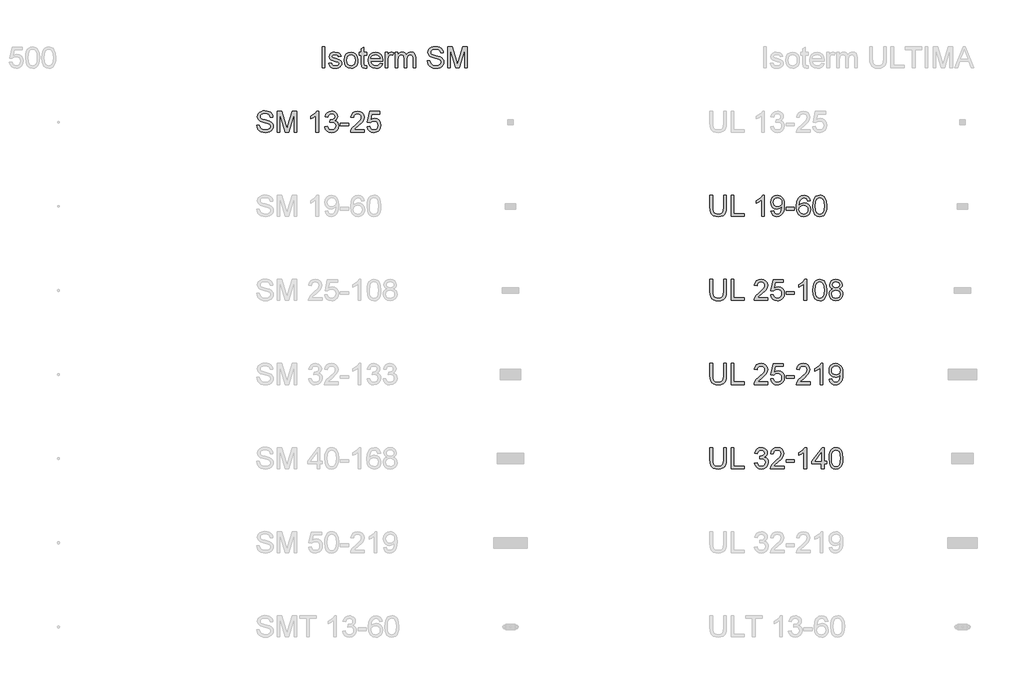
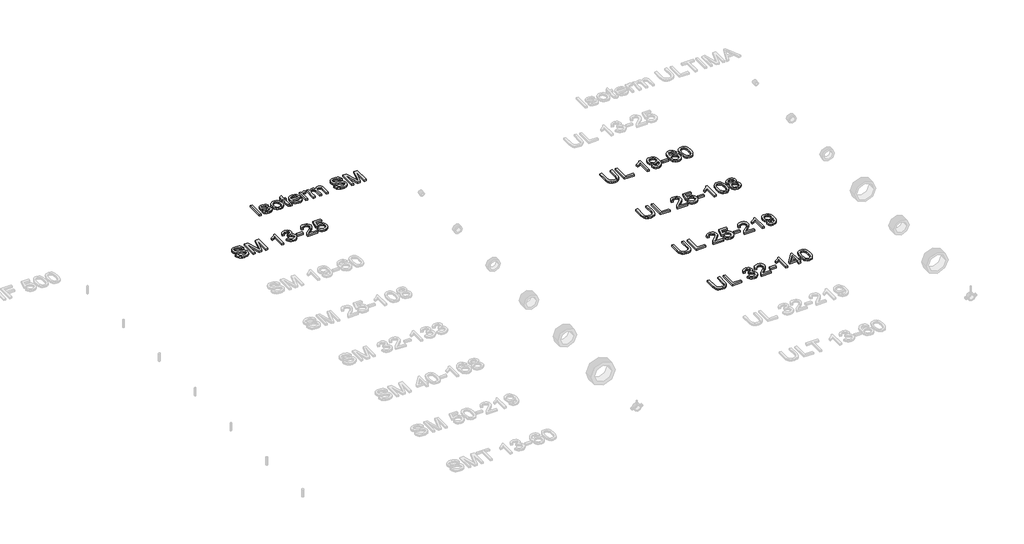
# One storey, part 8 of 10: 6 proxies.
"""IFC4 building model written with IfcOpenShell, lengths in millimetres."""

import ifcopenshell
import ifcopenshell.guid

model = None  # the IFC model being written
_history = None  # IfcOwnerHistory: only IFC2X3 demands one
_inside = {}  # id of a spatial element -> (the spatial element, [elements in it])
_under = {}  # id of a project, library or spatial element -> (it, [spatial elements below it])
_declared = {}  # id of a project -> (the project, [libraries it declares])
_typed = {}  # id of a type object -> (the type object, [elements of that type])
_made_of = {}  # id of a material, layer set ... -> (it, [elements and type objects made of it])


def new_model(schema):
    """Start an empty IFC model of exactly this schema.

    Asked for "IFC4X3", IfcOpenShell would pick the latest addendum, in which some entities
    have other attributes; the version numbers below select the first issue.
    IFC2X3 requires an IfcOwnerHistory on every rooted entity: one is made here for all.
    """
    global model, _history
    if schema == "IFC4X3":
        model = ifcopenshell.file(schema_version=(4, 3, 0, 0))
    else:
        model = ifcopenshell.file(schema=schema)
    _inside.clear()
    _under.clear()
    _declared.clear()
    _typed.clear()
    _made_of.clear()
    _history = None
    if model.schema == "IFC2X3":
        org = make("IfcOrganization", Name="unknown")
        user = make(
            "IfcPersonAndOrganization",
            ThePerson=make("IfcPerson", FamilyName="unknown"),
            TheOrganization=org,
        )
        app = make(
            "IfcApplication",
            ApplicationDeveloper=org,
            Version="unknown",
            ApplicationFullName="unknown",
            ApplicationIdentifier="unknown",
        )
        _history = make(
            "IfcOwnerHistory",
            OwningUser=user,
            OwningApplication=app,
            ChangeAction="ADDED",
            CreationDate=0,
        )
    return model


def make(cls, **values):
    """One entity of the class cls with the attributes given. An attribute that is None is left unset."""
    return model.create_entity(
        cls, **{name: value for name, value in values.items() if value is not None}
    )


def rooted(cls, **values):
    """An entity with a GlobalId (a new one), such as an element, a storey or a relation."""
    return make(cls, GlobalId=ifcopenshell.guid.new(), OwnerHistory=_history, **values)


def si_unit(unit_type, name, prefix=None):
    """IfcSIUnit, for example si_unit("LENGTHUNIT", "METRE", prefix="MILLI")."""
    return make("IfcSIUnit", UnitType=unit_type, Prefix=prefix, Name=name)


def assignment(units):
    """IfcUnitAssignment: the units of a project."""
    return None if units is None else make("IfcUnitAssignment", Units=units)


def point(xyz):
    """IfcCartesianPoint."""
    return None if xyz is None else make("IfcCartesianPoint", Coordinates=xyz)


def direction(xyz):
    """IfcDirection."""
    return None if xyz is None else make("IfcDirection", DirectionRatios=xyz)


def frame(location, z_axis=None, x_axis=None):
    """IfcAxis2Placement3D, a coordinate frame: its origin and axes. An axis left out is left unset."""
    return make(
        "IfcAxis2Placement3D",
        Location=point(location),
        Axis=direction(z_axis),
        RefDirection=direction(x_axis),
    )


def origin():
    """The frame at (0, 0, 0) with its axes left unset."""
    return frame((0.0, 0.0, 0.0))


def origin_with_axes():
    """The frame at (0, 0, 0) with the z axis (0, 0, 1) and the x axis (1, 0, 0) written out."""
    return frame((0.0, 0.0, 0.0), z_axis=(0.0, 0.0, 1.0), x_axis=(1.0, 0.0, 0.0))


def place(relative_to, where):
    """IfcLocalPlacement: puts the frame where relative to a parent placement (None: the world)."""
    return make(
        "IfcLocalPlacement", PlacementRelTo=relative_to, RelativePlacement=where
    )


def context(
    kind, dimensions, precision=None, world=None, true_north=None, identifier=None
):
    """IfcGeometricRepresentationContext, for example the 3D "Model" context."""
    return make(
        "IfcGeometricRepresentationContext",
        ContextIdentifier=identifier,
        ContextType=kind,
        CoordinateSpaceDimension=dimensions,
        Precision=precision,
        WorldCoordinateSystem=world,
        TrueNorth=true_north,
    )


def project(units=None, contexts=None):
    """IfcProject with its units and contexts."""
    return rooted(
        "IfcProject",
        Name="project",
        RepresentationContexts=contexts,
        UnitsInContext=assignment(units),
    )


def spatial(cls, under=None, at=None, **own):
    """A site, building, storey or space (cls), placed at a placement, below another one or the project."""
    s = rooted(cls, ObjectPlacement=at, **own)
    if under is not None:
        _under.setdefault(under.id(), (under, []))[1].append(s)
    return s


def polyline(points):
    """IfcPolyline through the points."""
    return make("IfcPolyline", Points=[point(p) for p in points])


def outline(outer, holes=None, kind="AREA"):
    """IfcArbitraryClosedProfileDef: a profile drawn as a closed curve; with holes, ...WithVoids."""
    if holes is None:
        return make("IfcArbitraryClosedProfileDef", ProfileType=kind, OuterCurve=outer)
    return make(
        "IfcArbitraryProfileDefWithVoids",
        ProfileType=kind,
        OuterCurve=outer,
        InnerCurves=holes,
    )


def extrude(swept, where, along, depth):
    """IfcExtrudedAreaSolid: the profile swept, set in the frame where, extruded along a direction by depth."""
    return make(
        "IfcExtrudedAreaSolid",
        SweptArea=swept,
        Position=where,
        ExtrudedDirection=direction(along),
        Depth=depth,
    )


def shape(context_of_items, identifier, shape_type, items):
    """IfcShapeRepresentation: the items that make up one representation, for example the "Body"."""
    return make(
        "IfcShapeRepresentation",
        ContextOfItems=context_of_items,
        RepresentationIdentifier=identifier,
        RepresentationType=shape_type,
        Items=items,
    )


def made_of(thing, what):
    """Note that an element or type object is made of a material, layer set ...; save() writes the relation."""
    if what is not None:
        _made_of.setdefault(what.id(), (what, []))[1].append(thing)
    return thing


def element(
    cls,
    number,
    at=None,
    inside=None,
    cuts=None,
    type_object=None,
    material=None,
    context=None,
    identifier="Body",
    shape_type=None,
    held_by="IfcProductDefinitionShape",
    body=None,
    shapes=None,
    **own,
):
    """One element of the class cls, such as IfcWall. Its Tag is "e" and its number.

    at: its placement. inside: the storey or other place that contains it. cuts: it is an
    opening in that element (IfcRelVoidsElement). A single representation is given by context,
    identifier, shape_type and body (its items); several are given by shapes. held_by: the class
    of the entity that holds the representations. save() writes the other relations.
    """
    e = rooted(cls, Tag="e%d" % number, ObjectPlacement=at, **own)
    if body is not None:
        shapes = [shape(context, identifier, shape_type, body)]
    if shapes is not None:
        e.Representation = make(held_by, Representations=shapes)
    if inside is not None:
        _inside.setdefault(inside.id(), (inside, []))[1].append(e)
    if cuts is not None:
        rooted(
            "IfcRelVoidsElement", RelatingBuildingElement=cuts, RelatedOpeningElement=e
        )
    if type_object is not None:
        _typed.setdefault(type_object.id(), (type_object, []))[1].append(e)
    return made_of(e, material)


def aggregate(whole, parts):
    """IfcRelAggregates: a whole, such as a stair, and the parts it consists of."""
    return rooted("IfcRelAggregates", RelatingObject=whole, RelatedObjects=parts)


def save(model, path):
    """Write the relations noted so far, then the file.

    IfcRelAggregates (storeys below a building ...), IfcRelContainedInSpatialStructure (elements
    in a storey), IfcRelDefinesByType, IfcRelAssociatesMaterial and IfcRelDeclares: one each for
    every whole, place, type object, material and project.
    """
    for whole, parts in _under.values():
        aggregate(whole, parts)
    for where, things in _inside.values():
        rooted(
            "IfcRelContainedInSpatialStructure",
            RelatedElements=things,
            RelatingStructure=where,
        )
    for kind, things in _typed.values():
        rooted("IfcRelDefinesByType", RelatedObjects=things, RelatingType=kind)
    for what, things in _made_of.values():
        rooted("IfcRelAssociatesMaterial", RelatedObjects=things, RelatingMaterial=what)
    for by, libraries in _declared.values():
        rooted("IfcRelDeclares", RelatingContext=by, RelatedDefinitions=libraries)
    model.write(path)


model = new_model("IFC4")

# Units and contexts
model_context = context("Model", 3, world=origin())
ifc_project = project(units=[si_unit("LENGTHUNIT", "METRE", prefix="MILLI")], contexts=[model_context])

# Site, building, storey
site = spatial("IfcSite", under=ifc_project)
building = spatial("IfcBuilding", under=site)
storey = spatial("IfcBuildingStorey", under=building, Name="Этаж 01", Elevation=0.0)

# Proxies
placement = place(None, origin())
element("IfcBuildingElementProxy", 1, Name="200 мм Arial", ObjectType="200 мм Arial", at=placement, inside=storey, context=model_context, shape_type="SweptSolid", body=[
    extrude(outline(polyline([(9784.860356, -183.6730679), (9784.860356, 17.2395524), (9809.9744335, 17.2395524), (9809.9744335, -183.6730679), (9784.860356, -183.6730679)])), origin_with_axes(), (0.0, 0.0, 1.0), 20.0),
    extrude(outline(polyline([(9847.6455499, -139.7234322), (9872.7596274, -136.5841725), (9876.7204902, -147.3263267), (9884.3846984, -155.2235269), (9895.801303, -160.0795692), (9911.0193549, -161.69825), (9926.0534658, -160.2144593), (9936.6239418, -155.7630872), (9942.8779357, -149.3128895), (9944.9626003, -141.8326223), (9942.8656729, -135.4314756), (9936.5748908, -130.5509078), (9910.7250493, -123.3894716), (9872.9067802, -111.102213), (9863.3357169, -104.9279268), (9856.4011413, -96.7548151), (9850.7848095, -76.4967799), (9855.2974954, -57.7838491), (9867.6092795, -43.4855022), (9883.575358, -36.0542859), (9905.1822939, -32.9886026), (9935.741025, -37.9182214), (9947.1698923, -43.7184942), (9955.1651943, -51.2600751), (9963.7981585, -73.7989786), (9938.6840809, -76.9382383), (9935.5141644, -69.0349068), (9929.2417764, -63.0813498), (9907.1443312, -58.1026802), (9892.723357, -59.2921653), (9883.1093742, -62.8606207), (9877.7015089, -68.0109686), (9875.8988871, -73.9461314), (9878.890994, -81.2547204), (9888.2597221, -86.7974758), (9909.8911834, -92.1440275), (9946.7529594, -103.9653022), (9963.8717349, -117.3562069), (9968.5254421, -127.2031816), (9970.0766778, -139.1838719), (9968.255662, -151.5692324), (9962.7926143, -163.2188289), (9953.8960014, -173.2190878), (9941.7742897, -180.6564355), (9927.1325863, -185.2733545), (9910.6759984, -186.8123276), (9885.3534544, -183.8447461), (9866.8735155, -174.9420018), (9854.5372059, -160.2021966), (9847.6455499, -139.7234322)])), origin_with_axes(), (0.0, 0.0, 1.0), 20.0),
    extrude(outline(polyline([(9992.0514957, -109.9004651), (9997.4838865, -74.3262762), (10004.274375, -60.5031102), (10013.7810589, -49.3225632), (10033.9164667, -37.0720928), (10058.0250002, -32.9886026), (10084.4082706, -37.9611409), (10105.4817775, -52.8787558), (10119.2957465, -76.564225), (10123.9004028, -107.8403259), (10121.8647891, -133.2119209), (10115.7579479, -152.5257256), (10105.757689, -166.9896194), (10092.041822, -177.8114814), (10075.750781, -184.562116), (10058.0250002, -186.8123276), (10031.3228987, -181.8581834), (10010.2739172, -166.9957508), (9996.6071011, -142.8136409), (9992.0514957, -109.9004651)]), holes=[polyline([(10017.1655732, -109.8514142), (10020.071841, -132.5803901), (10028.7906443, -148.7733293), (10041.9117688, -158.4670198), (10058.0250002, -161.69825), (10074.0646552, -158.4486257), (10087.1612542, -148.6997529), (10095.8800575, -132.2922159), (10098.7863252, -109.0665992), (10095.8616634, -86.9998109), (10087.0876778, -71.0276009), (10073.9726847, -61.3339104), (10058.0250002, -58.1026802), (10041.9117688, -61.3216476), (10028.7906443, -70.97855), (10020.071841, -87.134701), (10017.1655732, -109.8514142)])]), origin_with_axes(), (0.0, 0.0, 1.0), 20.0),
    extrude(outline(polyline([(10205.5211548, -162.7283196), (10208.6604145, -184.4088319), (10189.8739072, -186.8123276), (10168.8310571, -182.6429983), (10158.3341575, -171.7046403), (10155.2929997, -143.2060484), (10155.2929997, -61.2419399), (10136.4574415, -61.2419399), (10136.4574415, -36.1278623), (10155.2929997, -36.1278623), (10155.2929997, -0.2716305), (10180.4070772, 14.4927002), (10180.4070772, -36.1278623), (10205.5211548, -36.1278623), (10205.5211548, -61.2419399), (10180.4070772, -61.2419399), (10180.4070772, -142.4702844), (10181.7314524, -155.4197306), (10186.023409, -160.0059928), (10194.5827968, -161.69825), (10205.5211548, -162.7283196)])), origin_with_axes(), (0.0, 0.0, 1.0), 20.0),
    extrude(outline(polyline([(10333.9364965, -139.7234322), (10358.5600648, -142.8626919), (10349.6879773, -161.4162072), (10335.5306519, -175.2853584), (10316.4069195, -183.9305853), (10292.6356112, -186.8123276), (10263.1682634, -181.8397893), (10240.4944698, -166.9221744), (10226.0367074, -143.0282388), (10221.2174532, -111.1267384), (10226.0857583, -78.1522489), (10240.6906735, -53.4918925), (10263.0578988, -38.1144251), (10291.2131342, -32.9886026), (10318.4915841, -38.1021624), (10340.2885923, -53.4428416), (10354.5808078, -78.0541471), (10359.3448797, -110.9795856), (10359.1977269, -117.7486143), (10246.3315308, -117.7486143), (10250.6786697, -136.5473843), (10260.7770304, -150.3674846), (10275.3512888, -158.8655587), (10293.1261205, -161.69825), (10317.7496888, -156.4498002), (10326.8976877, -149.6439833), (10333.9364965, -139.7234322)]), holes=[polyline([(10246.3315308, -92.6345368), (10334.2308021, -92.6345368), (10330.8340251, -79.3662595), (10324.1753609, -69.874904), (10309.5336575, -61.0457361), (10291.1150323, -58.1026802), (10274.1863292, -60.4509936), (10260.1884192, -67.4959338), (10250.4579405, -78.4772113), (10246.3315308, -92.6345368)])]), origin_with_axes(), (0.0, 0.0, 1.0), 20.0),
    extrude(outline(polyline([(10384.4589572, -183.6730679), (10384.4589572, -36.1278623), (10406.4337751, -36.1278623), (10406.4337751, -57.9555274), (10422.0319717, -37.844645), (10437.7282701, -32.9886026), (10450.236258, -34.9261145), (10462.9404495, -40.73865), (10454.55274, -63.2530281), (10436.8944043, -58.1026802), (10422.6941592, -63.0568244), (10413.6442622, -76.7910855), (10409.5730348, -106.1235433), (10409.5730348, -183.6730679), (10384.4589572, -183.6730679)])), origin_with_axes(), (0.0, 0.0, 1.0), 20.0),
    extrude(outline(polyline([(10478.636748, -183.6730679), (10478.636748, -36.1278623), (10503.7508255, -36.1278623), (10503.7508255, -60.408074), (10511.3046692, -49.2551182), (10521.0167538, -40.5179208), (10532.5559857, -34.8709322), (10545.5912711, -32.9886026), (10559.5585242, -34.9077204), (10570.7543996, -40.6650736), (10579.1175836, -49.8805176), (10584.5867626, -62.1739076), (10593.7408929, -49.4053367), (10604.1826102, -40.2849289), (10615.9119145, -34.8126842), (10628.9288057, -32.9886026), (10647.8072835, -36.0236291), (10661.7684052, -45.1287085), (10670.395238, -60.5490954), (10673.2708489, -82.5300447), (10673.2708489, -183.6730679), (10648.1567714, -183.6730679), (10648.1567714, -93.3212499), (10645.8268521, -72.3519761), (10637.3900916, -62.0267548), (10623.0426938, -58.1026802), (10609.4371914, -60.6165405), (10598.3455492, -68.1581214), (10590.9695152, -81.2424577), (10588.5108372, -100.3845842), (10588.5108372, -183.6730679), (10563.3967597, -183.6730679), (10563.3967597, -90.5253467), (10561.9436258, -76.3251017), (10557.5842241, -66.1960841), (10549.9138845, -60.1260312), (10538.5279368, -58.1026802), (10519.9376333, -63.4982828), (10512.5799934, -70.1446842), (10507.5767983, -79.2926831), (10503.7508255, -109.262803), (10503.7508255, -183.6730679), (10478.636748, -183.6730679)])), origin_with_axes(), (0.0, 0.0, 1.0), 20.0),
    extrude(outline(polyline([(10783.1449381, -114.6093546), (10808.2590157, -114.6093546), (10816.3524196, -139.7479576), (10824.4826116, -148.6384392), (10836.1199454, -155.6404598), (10850.3447159, -160.1838025), (10866.2372181, -161.69825), (10892.4794671, -157.1119878), (10909.4265643, -144.5058981), (10914.9938452, -127.6569027), (10910.8245159, -111.9851297), (10904.4724201, -105.7863181), (10893.7547913, -100.5807879), (10857.187321, -90.9913306), (10817.8239475, -78.60597), (10805.3220911, -70.1569469), (10796.4622663, -59.9175647), (10791.1831597, -48.1085526), (10789.4234575, -34.95064), (10791.6000926, -20.2414915), (10798.1299981, -6.5256245), (10808.8414955, 5.0994466), (10823.5629067, 13.536207), (10841.2335052, 18.6681608), (10860.7925646, 20.3788121), (10881.9825675, 18.5884531), (10900.52382, 13.217376), (10915.7541346, 4.3759453), (10927.0113237, -7.8254742), (10934.1359717, -22.6265931), (10936.968663, -39.267122), (10911.8545855, -39.267122), (10907.2437978, -24.2820621), (10897.629815, -13.4663314), (10882.6079669, -6.9180319), (10861.7735832, -4.7352654), (10840.4486902, -6.8935065), (10825.8192496, -13.3682296), (10817.3579637, -22.8963732), (10814.537535, -34.214876), (10816.5363606, -43.865647), (10822.5328371, -51.6279571), (10836.7085566, -58.568664), (10863.5394168, -65.6565238), (10907.9795618, -78.2626135), (10922.2963028, -87.3738243), (10932.284299, -98.6187506), (10938.1520168, -111.8747651), (10940.1079227, -127.0192406), (10937.8577112, -142.5009412), (10931.1070766, -157.0629369), (10920.1319304, -169.5954502), (10905.2081841, -178.9887038), (10887.2616741, -184.8564216), (10867.2182368, -186.8123276), (10842.6130626, -184.7031375), (10822.3611588, -178.3755671), (10806.2295333, -167.8050911), (10793.9851942, -152.967184), (10786.1247823, -134.8919153), (10783.1449381, -114.6093546)])), origin_with_axes(), (0.0, 0.0, 1.0), 20.0),
    extrude(outline(polyline([(10977.779039, -183.6730679), (10977.779039, 17.2395524), (11020.9929107, 17.2395524), (11062.0975923, -124.3704902), (11070.3872, -153.9482027), (11079.3635206, -121.9179436), (11119.7814892, 17.2395524), (11162.9953609, 17.2395524), (11162.9953609, -183.6730679), (11137.8812833, -183.6730679), (11137.8812833, -7.8745251), (11087.4078736, -183.6730679), (11053.3665263, -183.6730679), (11002.8931166, -7.8745251), (11002.8931166, -183.6730679), (10977.779039, -183.6730679)])), origin_with_axes(), (0.0, 0.0, 1.0), 20.0),
])
element("IfcBuildingElementProxy", 2, Name="200 мм Arial", ObjectType="200 мм Arial", at=placement, inside=storey, context=model_context, shape_type="SweptSolid", body=[
    extrude(outline(polyline([(9162.1098597, -725.9144615), (9187.2239373, -725.9144615), (9195.3173412, -751.0530645), (9203.4475333, -759.9435461), (9215.084867, -766.9455667), (9229.3096375, -771.4889093), (9245.2021397, -773.0033569), (9271.4443887, -768.4170947), (9288.3914859, -755.811005), (9293.9587668, -738.9620096), (9289.7894375, -723.2902366), (9283.4373417, -717.091425), (9272.7197129, -711.8858947), (9236.1522426, -702.2964374), (9196.7888691, -689.9110769), (9184.2870127, -681.4620537), (9175.427188, -671.2226715), (9170.1480813, -659.4136595), (9168.3883791, -646.2557468), (9170.5650143, -631.5465984), (9177.0949197, -617.8307313), (9187.8064171, -606.2056603), (9202.5278283, -597.7688998), (9220.1984268, -592.636946), (9239.7574862, -590.9262947), (9260.9474891, -592.7166538), (9279.4887417, -598.0877309), (9294.7190563, -606.9291615), (9305.9762453, -619.130581), (9313.1008933, -633.9317), (9315.9335846, -650.5722289), (9290.8195071, -650.5722289), (9286.2087194, -635.5871689), (9276.5947366, -624.7714383), (9261.5728885, -618.2231388), (9240.7385048, -616.0403723), (9219.4136118, -618.1986133), (9204.7841712, -624.6733364), (9196.3228853, -634.2014801), (9193.5024567, -645.5199828), (9195.5012822, -655.1707538), (9201.4977587, -662.9330639), (9215.6734782, -669.8737709), (9242.5043384, -676.9616307), (9286.9444834, -689.5677204), (9301.2612244, -698.6789311), (9311.2492206, -709.9238574), (9317.1169384, -723.179872), (9319.0728443, -738.3243475), (9316.8226328, -753.8060481), (9310.0719982, -768.3680437), (9299.096852, -780.900557), (9284.1731057, -790.2938107), (9266.2265957, -796.1615285), (9246.1831584, -798.1174344), (9221.5779843, -796.0082443), (9201.3260804, -789.680674), (9185.1944549, -779.110198), (9172.9501159, -764.2722909), (9165.0897039, -746.1970222), (9162.1098597, -725.9144615)])), origin_with_axes(), (0.0, 0.0, 1.0), 20.0),
    extrude(outline(polyline([(9356.7439606, -794.9781747), (9356.7439606, -594.0655544), (9399.9578323, -594.0655544), (9441.0625139, -735.6755971), (9449.3521216, -765.2533095), (9458.3284422, -733.2230505), (9498.7464108, -594.0655544), (9541.9602825, -594.0655544), (9541.9602825, -794.9781747), (9516.8462049, -794.9781747), (9516.8462049, -619.179632), (9466.3727952, -794.9781747), (9432.3314479, -794.9781747), (9381.8580382, -619.179632), (9381.8580382, -794.9781747), (9356.7439606, -794.9781747)])), origin_with_axes(), (0.0, 0.0, 1.0), 20.0),
    extrude(outline(polyline([(9749.1514222, -794.9781747), (9724.0373446, -794.9781747), (9724.0373446, -638.4075976), (9700.2476423, -655.3546948), (9673.8091896, -668.0343609), (9673.8091896, -644.2937095), (9710.6219145, -620.7983127), (9724.0925269, -607.2234671), (9732.9646144, -594.0655544), (9749.1514222, -594.0655544), (9749.1514222, -794.9781747)])), origin_with_axes(), (0.0, 0.0, 1.0), 20.0),
    extrude(outline(polyline([(9808.7973563, -741.61076), (9833.9114339, -738.4715003), (9839.533897, -754.2536379), (9847.7683223, -764.909953), (9859.01938, -770.9800059), (9873.6917403, -773.0033569), (9890.9086176, -770.2197164), (9904.2014204, -761.8687952), (9912.6994945, -749.4098583), (9915.5321859, -734.302171), (9912.72402, -719.9609045), (9904.2995223, -708.3297021), (9891.5462798, -700.6225743), (9875.7518794, -698.0535317), (9858.1425946, -700.800384), (9860.9384978, -675.6863064), (9864.9606742, -675.980612), (9880.0070479, -674.1779902), (9893.4592661, -668.7701249), (9902.9506216, -659.622126), (9906.1144068, -646.5991033), (9903.8212757, -635.7527158), (9896.9418824, -626.9542048), (9886.4449828, -621.1232752), (9873.2993328, -619.179632), (9860.1291574, -621.1416693), (9849.3624777, -627.0277812), (9841.5020657, -636.8379677), (9837.0506935, -650.5722289), (9811.936616, -647.4329692), (9819.3310441, -624.8818029), (9832.4889568, -608.0450702), (9850.4906491, -597.5604334), (9872.416416, -594.0655544), (9888.204685, -595.7884684), (9902.705367, -600.9572105), (9914.9313119, -609.111928), (9923.8953699, -619.7927686), (9929.3952057, -632.0984214), (9931.2284843, -645.1275754), (9929.4871762, -657.2676812), (9924.2632519, -668.2796156), (9915.6302877, -677.6606065), (9903.6618601, -684.9078818), (9919.3826841, -691.2599776), (9931.0322806, -702.0757082), (9938.2427677, -716.7664625), (9940.6462634, -734.7436294), (9935.839272, -759.2200448), (9921.4182978, -779.6742837), (9899.6519464, -793.5066467), (9872.8088235, -798.1174344), (9848.5286118, -794.1810971), (9828.7610859, -782.372085), (9815.014562, -764.3090791), (9808.7973563, -741.61076)])), origin_with_axes(), (0.0, 0.0, 1.0), 20.0),
    extrude(outline(polyline([(9956.3425619, -735.3322406), (9956.3425619, -710.218163), (10034.8240542, -710.218163), (10034.8240542, -735.3322406), (9956.3425619, -735.3322406)])), origin_with_axes(), (0.0, 0.0, 1.0), 20.0),
    extrude(outline(polyline([(10185.5085194, -769.8640972), (10185.5085194, -794.9781747), (10053.6596123, -794.9781747), (10056.3574136, -777.6631955), (10071.6122537, -751.0040136), (10103.0539015, -721.892285), (10146.414926, -680.0518394), (10154.5451181, -665.6308652), (10157.2551822, -651.6022985), (10154.6984023, -639.0268656), (10147.0280627, -628.5728856), (10135.2374447, -621.5279454), (10120.3198298, -619.179632), (10104.6541882, -621.4727631), (10092.4834255, -628.3521564), (10084.6291449, -639.2782516), (10081.9129495, -653.7114886), (10056.798872, -650.5722289), (10062.887319, -626.2797545), (10076.0513631, -608.5355796), (10095.6042911, -597.6830607), (10120.8593901, -594.0655544), (10146.2984301, -598.0877309), (10165.8145699, -610.1542603), (10178.2305872, -628.1804781), (10182.3692597, -650.0817196), (10177.9056248, -673.8959474), (10163.0677177, -698.5195156), (10127.0888585, -732.9287449), (10098.1978592, -757.0863292), (10086.8670937, -769.8640972), (10185.5085194, -769.8640972)])), origin_with_axes(), (0.0, 0.0, 1.0), 20.0),
    extrude(outline(polyline([(10210.6225969, -741.61076), (10235.7366745, -738.4715003), (10240.3474621, -753.5485307), (10248.3918151, -764.3458673), (10259.8329451, -770.8389845), (10274.6340641, -773.0033569), (10292.6357564, -769.9928559), (10306.1247629, -760.9613529), (10314.5492606, -746.9511803), (10317.3574265, -729.0046703), (10314.7270702, -712.1066239), (10306.8360014, -699.1817032), (10293.6229064, -690.9779347), (10275.0264715, -688.2433452), (10252.9780773, -692.6088782), (10238.8759341, -703.9396437), (10213.7618566, -700.800384), (10235.7366745, -597.2048141), (10333.0537249, -597.2048141), (10333.0537249, -622.3188917), (10256.0437606, -622.3188917), (10245.3016063, -677.6483437), (10263.241985, -666.7590367), (10282.0407549, -663.1292677), (10305.5054948, -667.6296907), (10324.9848465, -681.13096), (10338.0998396, -701.7078262), (10342.471504, -727.4350404), (10338.5351666, -752.5491179), (10326.7261546, -774.0334265), (10316.2905687, -784.5701799), (10304.1136746, -792.0964324), (10290.1954725, -796.6121839), (10274.5359622, -798.1174344), (10249.8694744, -794.2485421), (10230.2184445, -782.6418652), (10216.7478321, -764.6463042), (10210.6225969, -741.61076)])), origin_with_axes(), (0.0, 0.0, 1.0), 20.0),
])
element("IfcBuildingElementProxy", 3, Name="200 мм Arial", ObjectType="200 мм Arial", at=placement, inside=storey, context=model_context, shape_type="SweptSolid", body=[
    extrude(outline(polyline([(13603.3765459, -1394.0655544), (13628.4906234, -1394.0655544), (13628.4906234, -1509.9729084), (13626.7861035, -1537.1164682), (13621.6725438, -1558.0182969), (13612.1198746, -1574.1437911), (13597.0980265, -1586.9583472), (13576.5702112, -1595.3276626), (13550.4996404, -1598.1174344), (13524.9992868, -1595.6894132), (13504.6124929, -1588.4053497), (13489.3331274, -1576.5166299), (13479.1550588, -1560.2746398), (13473.4344938, -1538.4898944), (13471.5276388, -1509.9729084), (13471.5276388, -1394.0655544), (13496.6417163, -1394.0655544), (13496.6417163, -1509.0899916), (13497.8802524, -1531.659552), (13501.5958605, -1547.3742445), (13508.3281011, -1558.2574202), (13518.6165342, -1566.33243), (13532.0319643, -1571.3356252), (13548.1451957, -1573.0033569), (13573.6884689, -1569.7046817), (13590.6723543, -1559.808656), (13600.200498, -1540.5316394), (13603.3765459, -1509.0899916), (13603.3765459, -1394.0655544)])), origin_with_axes(), (0.0, 0.0, 1.0), 20.0),
    extrude(outline(polyline([(13672.4402591, -1594.9781747), (13672.4402591, -1394.0655544), (13697.5543366, -1394.0655544), (13697.5543366, -1569.8640972), (13798.0106468, -1569.8640972), (13798.0106468, -1594.9781747), (13672.4402591, -1594.9781747)])), origin_with_axes(), (0.0, 0.0, 1.0), 20.0),
    extrude(outline(polyline([(13989.505488, -1594.9781747), (13964.3914105, -1594.9781747), (13964.3914105, -1438.4075976), (13940.6017081, -1455.3546948), (13914.1632554, -1468.0343609), (13914.1632554, -1444.2937095), (13950.9759804, -1420.7983127), (13964.4465928, -1407.2234671), (13973.3186802, -1394.0655544), (13989.505488, -1394.0655544), (13989.505488, -1594.9781747)])), origin_with_axes(), (0.0, 0.0, 1.0), 20.0),
    extrude(outline(polyline([(14052.2906819, -1544.7500196), (14077.4047594, -1541.61076), (14081.696716, -1555.8661873), (14088.6864739, -1565.5721406), (14098.2023549, -1571.1455528), (14110.0726806, -1573.0033569), (14130.4042922, -1568.2208909), (14144.1876043, -1555.443123), (14152.4036355, -1533.6154579), (14156.0334045, -1504.4792039), (14155.8862517, -1499.5741106), (14147.1858425, -1510.1936376), (14135.7998948, -1518.6058725), (14122.5500116, -1524.0873143), (14108.2577961, -1525.9144615), (14085.3571419, -1521.4508266), (14066.2947231, -1508.059922), (14053.4372474, -1487.3726911), (14049.1514222, -1461.0200775), (14053.6457139, -1433.7968099), (14067.128589, -1412.4596542), (14087.3804928, -1398.6640794), (14112.1818707, -1394.0655544), (14130.9131956, -1396.6897793), (14147.9645261, -1404.562454), (14162.2260848, -1417.2911711), (14172.5880943, -1434.483523), (14178.8972705, -1458.2486999), (14181.0003292, -1490.6958918), (14178.9034019, -1525.0989897), (14172.6126197, -1551.6907266), (14162.1831652, -1571.6728503), (14147.6702205, -1586.2471087), (14129.699185, -1595.149853), (14108.8954582, -1598.1174344), (14087.4234124, -1594.6164241), (14070.2923742, -1584.1133931), (14058.3116838, -1567.2705291), (14052.2906819, -1544.7500196)]), holes=[polyline([(14155.8862517, -1460.4314664), (14153.1761877, -1443.4107927), (14145.0459956, -1430.3141937), (14132.4276431, -1421.9632724), (14116.2530981, -1419.179632), (14099.4776791, -1422.1778702), (14086.0377236, -1431.172585), (14077.2085557, -1444.937503), (14074.2654997, -1462.2463509), (14077.0491401, -1477.7648397), (14085.4000614, -1490.0827552), (14098.5089232, -1498.1209768), (14115.566385, -1500.800384), (14131.6121714, -1498.1209768), (14144.5309608, -1490.0827552), (14153.047429, -1477.3111186), (14155.8862517, -1460.4314664)])]), origin_with_axes(), (0.0, 0.0, 1.0), 20.0),
    extrude(outline(polyline([(14196.6966277, -1535.3322406), (14196.6966277, -1510.218163), (14275.17812, -1510.218163), (14275.17812, -1535.3322406), (14196.6966277, -1535.3322406)])), origin_with_axes(), (0.0, 0.0, 1.0), 20.0),
    extrude(outline(polyline([(14425.8625852, -1447.4329692), (14400.7485077, -1450.5722289), (14391.2326267, -1429.6274806), (14379.8405476, -1421.7915941), (14366.0694983, -1419.179632), (14343.4079674, -1425.2619476), (14333.9717942, -1434.8697991), (14326.2646664, -1448.0951568), (14321.0591362, -1466.8019562), (14319.1277557, -1492.8541329), (14329.201591, -1481.1003031), (14341.2742518, -1472.8168269), (14354.6712878, -1467.9056022), (14368.7182486, -1466.2685273), (14391.9193398, -1470.744425), (14411.3925601, -1484.1721178), (14424.5995237, -1504.6876704), (14429.0018449, -1530.4271473), (14426.929443, -1548.4104455), (14420.7122373, -1565.0816312), (14410.8652626, -1579.2205626), (14397.9035536, -1589.6070976), (14382.4157216, -1595.9898502), (14364.9903778, -1598.1174344), (14336.4979172, -1592.4765772), (14313.8057295, -1575.5540054), (14305.146707, -1562.4451436), (14298.961691, -1545.6819874), (14294.0136782, -1501.1927914), (14299.5073826, -1451.1731028), (14306.3745132, -1432.0953557), (14315.988496, -1416.97234), (14326.4087535, -1406.9506213), (14338.4906114, -1399.7922508), (14367.6391281, -1394.0655544), (14389.6752596, -1397.6094843), (14407.3213327, -1408.241274), (14419.6821677, -1425.1270576), (14425.8625852, -1447.4329692)]), holes=[polyline([(14319.1277557, -1530.0347398), (14324.9402912, -1551.7888285), (14340.391335, -1567.5832288), (14363.0283405, -1573.0033569), (14379.6014243, -1570.195191), (14392.6305783, -1561.7706933), (14401.0734701, -1548.5269415), (14403.8877674, -1531.2610132), (14401.1102583, -1514.6879293), (14392.7777311, -1502.0511827), (14379.5278479, -1494.0497493), (14361.9982709, -1491.3826049), (14345.4497124, -1494.0497493), (14331.6112181, -1502.0511827), (14322.2486213, -1514.3813609), (14319.1277557, -1530.0347398)])]), origin_with_axes(), (0.0, 0.0, 1.0), 20.0),
    extrude(outline(polyline([(14450.9766628, -1496.1405454), (14452.8222041, -1463.9815276), (14458.3588281, -1438.3340212), (14467.5313525, -1418.8056186), (14480.284595, -1405.0039124), (14496.7105261, -1396.8001439), (14516.9011163, -1394.0655544), (14532.3766856, -1395.6842352), (14546.2335741, -1400.5402775), (14557.8218569, -1408.4436091), (14566.4916093, -1419.2041574), (14578.2638331, -1448.9290226), (14582.8255698, -1496.1405454), (14580.9984226, -1528.1156221), (14575.5169809, -1553.7018149), (14566.3996388, -1573.2486115), (14553.6647904, -1587.1055), (14537.2020711, -1595.3644508), (14516.9011163, -1598.1174344), (14490.8060201, -1593.3349685), (14470.9894433, -1578.9875707), (14462.2338518, -1563.8584236), (14455.9798579, -1545.007537), (14450.9766628, -1496.1405454)]), holes=[polyline([(14476.0907403, -1496.0914944), (14479.0337963, -1535.5958893), (14487.8629641, -1558.4597553), (14501.0086141, -1569.3674565), (14516.9011163, -1573.0033569), (14532.7936185, -1569.3551938), (14545.9392685, -1558.4107044), (14554.7684363, -1535.5345757), (14557.7114923, -1496.0914944), (14554.8665382, -1457.4761477), (14546.3316759, -1434.434472), (14533.2105514, -1422.993342), (14516.6068107, -1419.179632), (14500.8859868, -1422.5396209), (14488.2553716, -1432.6195875), (14479.1318981, -1457.0960029), (14476.0907403, -1496.0914944)])]), origin_with_axes(), (0.0, 0.0, 1.0), 20.0),
])
element("IfcBuildingElementProxy", 4, Name="200 мм Arial", ObjectType="200 мм Arial", at=placement, inside=storey, context=model_context, shape_type="SweptSolid", body=[
    extrude(outline(polyline([(13603.3765459, -2194.0655544), (13628.4906234, -2194.0655544), (13628.4906234, -2309.9729084), (13626.7861035, -2337.1164682), (13621.6725438, -2358.0182969), (13612.1198746, -2374.1437911), (13597.0980265, -2386.9583472), (13576.5702112, -2395.3276626), (13550.4996404, -2398.1174344), (13524.9992868, -2395.6894132), (13504.6124929, -2388.4053497), (13489.3331274, -2376.5166299), (13479.1550588, -2360.2746398), (13473.4344938, -2338.4898944), (13471.5276388, -2309.9729084), (13471.5276388, -2194.0655544), (13496.6417163, -2194.0655544), (13496.6417163, -2309.0899916), (13497.8802524, -2331.659552), (13501.5958605, -2347.3742445), (13508.3281011, -2358.2574202), (13518.6165342, -2366.33243), (13532.0319643, -2371.3356252), (13548.1451957, -2373.0033569), (13573.6884689, -2369.7046817), (13590.6723543, -2359.808656), (13600.200498, -2340.5316394), (13603.3765459, -2309.0899916), (13603.3765459, -2194.0655544)])), origin_with_axes(), (0.0, 0.0, 1.0), 20.0),
    extrude(outline(polyline([(13672.4402591, -2394.9781747), (13672.4402591, -2194.0655544), (13697.5543366, -2194.0655544), (13697.5543366, -2369.8640972), (13798.0106468, -2369.8640972), (13798.0106468, -2394.9781747), (13672.4402591, -2394.9781747)])), origin_with_axes(), (0.0, 0.0, 1.0), 20.0),
    extrude(outline(polyline([(14024.0373446, -2369.8640972), (14024.0373446, -2394.9781747), (13892.1884376, -2394.9781747), (13894.8862389, -2377.6631955), (13910.1410789, -2351.0040136), (13941.5827268, -2321.892285), (13984.9437513, -2280.0518394), (13993.0739434, -2265.6308652), (13995.7840074, -2251.6022985), (13993.2272275, -2239.0268656), (13985.5568879, -2228.5728856), (13973.76627, -2221.5279454), (13958.8486551, -2219.179632), (13943.1830135, -2221.4727631), (13931.0122508, -2228.3521564), (13923.1579702, -2239.2782516), (13920.4417748, -2253.7114886), (13895.3276973, -2250.5722289), (13901.4161443, -2226.2797545), (13914.5801883, -2208.5355796), (13934.1331164, -2197.6830607), (13959.3882153, -2194.0655544), (13984.8272553, -2198.0877309), (14004.3433952, -2210.1542603), (14016.7594125, -2228.1804781), (14020.8980849, -2250.0817196), (14016.4344501, -2273.8959474), (14001.5965429, -2298.5195156), (13965.6176838, -2332.9287449), (13936.7266844, -2357.0863292), (13925.395919, -2369.8640972), (14024.0373446, -2369.8640972)])), origin_with_axes(), (0.0, 0.0, 1.0), 20.0),
    extrude(outline(polyline([(14049.1514222, -2341.61076), (14074.2654997, -2338.4715003), (14078.8762874, -2353.5485307), (14086.9206403, -2364.3458673), (14098.3617704, -2370.8389845), (14113.1628893, -2373.0033569), (14131.1645816, -2369.9928559), (14144.6535881, -2360.9613529), (14153.0780858, -2346.9511803), (14155.8862517, -2329.0046703), (14153.2558954, -2312.1066239), (14145.3648266, -2299.1817032), (14132.1517316, -2290.9779347), (14113.5552968, -2288.2433452), (14091.5069025, -2292.6088782), (14077.4047594, -2303.9396437), (14052.2906819, -2300.800384), (14074.2654997, -2197.2048141), (14171.5825502, -2197.2048141), (14171.5825502, -2222.3188917), (14094.5725858, -2222.3188917), (14083.8304316, -2277.6483437), (14101.7708102, -2266.7590367), (14120.5695802, -2263.1292677), (14144.0343201, -2267.6296907), (14163.5136717, -2281.13096), (14176.6286649, -2301.7078262), (14181.0003292, -2327.4350404), (14177.0639919, -2352.5491179), (14165.2549798, -2374.0334265), (14154.8193939, -2384.5701799), (14142.6424999, -2392.0964324), (14128.7242977, -2396.6121839), (14113.0647875, -2398.1174344), (14088.3982997, -2394.2485421), (14068.7472698, -2382.6418652), (14055.2766574, -2364.6463042), (14049.1514222, -2341.61076)])), origin_with_axes(), (0.0, 0.0, 1.0), 20.0),
    extrude(outline(polyline([(14196.6966277, -2335.3322406), (14196.6966277, -2310.218163), (14275.17812, -2310.218163), (14275.17812, -2335.3322406), (14196.6966277, -2335.3322406)])), origin_with_axes(), (0.0, 0.0, 1.0), 20.0),
    extrude(outline(polyline([(14391.3307286, -2394.9781747), (14366.2166511, -2394.9781747), (14366.2166511, -2238.4075976), (14342.4269487, -2255.3546948), (14315.988496, -2268.0343609), (14315.988496, -2244.2937095), (14352.801221, -2220.7983127), (14366.2718334, -2207.2234671), (14375.1439208, -2194.0655544), (14391.3307286, -2194.0655544), (14391.3307286, -2394.9781747)])), origin_with_axes(), (0.0, 0.0, 1.0), 20.0),
    extrude(outline(polyline([(14450.9766628, -2296.1405454), (14452.8222041, -2263.9815276), (14458.3588281, -2238.3340212), (14467.5313525, -2218.8056186), (14480.284595, -2205.0039124), (14496.7105261, -2196.8001439), (14516.9011163, -2194.0655544), (14532.3766856, -2195.6842352), (14546.2335741, -2200.5402775), (14557.8218569, -2208.4436091), (14566.4916093, -2219.2041574), (14578.2638331, -2248.9290226), (14582.8255698, -2296.1405454), (14580.9984226, -2328.1156221), (14575.5169809, -2353.7018149), (14566.3996388, -2373.2486115), (14553.6647904, -2387.1055), (14537.2020711, -2395.3644508), (14516.9011163, -2398.1174344), (14490.8060201, -2393.3349685), (14470.9894433, -2378.9875707), (14462.2338518, -2363.8584236), (14455.9798579, -2345.007537), (14450.9766628, -2296.1405454)]), holes=[polyline([(14476.0907403, -2296.0914944), (14479.0337963, -2335.5958893), (14487.8629641, -2358.4597553), (14501.0086141, -2369.3674565), (14516.9011163, -2373.0033569), (14532.7936185, -2369.3551938), (14545.9392685, -2358.4107044), (14554.7684363, -2335.5345757), (14557.7114923, -2296.0914944), (14554.8665382, -2257.4761477), (14546.3316759, -2234.434472), (14533.2105514, -2222.993342), (14516.6068107, -2219.179632), (14500.8859868, -2222.5396209), (14488.2553716, -2232.6195875), (14479.1318981, -2257.0960029), (14476.0907403, -2296.0914944)])]), origin_with_axes(), (0.0, 0.0, 1.0), 20.0),
    extrude(outline(polyline([(14641.3923835, -2284.3192706), (14627.9462965, -2277.6973947), (14618.5101234, -2268.721074), (14612.9367111, -2257.5742495), (14611.0789071, -2244.4408623), (14615.125609, -2224.8082265), (14627.2657149, -2208.5846305), (14646.1380612, -2197.6953234), (14670.3814847, -2194.0655544), (14694.772061, -2197.7811626), (14713.889662, -2208.927987), (14726.250497, -2225.4091004), (14730.3707754, -2245.1275754), (14728.5374968, -2257.8378983), (14723.0376609, -2268.7946504), (14713.8099542, -2277.7157888), (14700.793063, -2284.3192706), (14716.2502381, -2292.2839158), (14727.5012958, -2304.0132201), (14734.362295, -2318.9430977), (14736.6492948, -2336.509463), (14732.1120835, -2360.5198945), (14718.5004497, -2380.3609968), (14697.482125, -2393.678325), (14670.7248412, -2398.1174344), (14643.9675574, -2393.6599309), (14622.9492328, -2380.2874204), (14609.337599, -2360.2562457), (14604.8003877, -2335.8227499), (14607.1793579, -2317.5758029), (14614.3162686, -2302.5662175), (14625.8432378, -2291.3090285), (14641.3923835, -2284.3192706)]), holes=[polyline([(14636.1929846, -2245.1766263), (14638.4186707, -2256.1395097), (14645.0957289, -2264.8951012), (14656.0279555, -2270.6340604), (14671.0191468, -2272.5470467), (14685.6608502, -2270.6463231), (14696.4275299, -2264.9441522), (14703.0494059, -2256.4828663), (14705.2566978, -2246.3047977), (14702.9758295, -2235.7404531), (14696.1332244, -2227.0032557), (14685.2193918, -2221.1355379), (14670.7248412, -2219.179632), (14656.1383201, -2221.0926183), (14645.2428817, -2226.8315775), (14638.4554589, -2235.2438124), (14636.1929846, -2245.1766263)]), polyline([(14629.9144652, -2334.9398331), (14634.10832, -2353.8489677), (14639.9147241, -2361.9607657), (14648.9462271, -2368.0001617), (14670.9210449, -2373.0033569), (14688.015295, -2370.3730006), (14700.8421139, -2362.4819318), (14708.8619414, -2350.5318983), (14711.5352172, -2335.724648), (14708.7761023, -2320.6660117), (14700.4987574, -2308.4523295), (14687.3776329, -2300.3589256), (14670.0871791, -2297.6611243), (14653.2320523, -2300.3221374), (14640.5339921, -2308.3051767), (14632.569347, -2320.285867), (14629.9144652, -2334.9398331)])]), origin_with_axes(), (0.0, 0.0, 1.0), 20.0),
])
element("IfcBuildingElementProxy", 5, Name="200 мм Arial", ObjectType="200 мм Arial", at=placement, inside=storey, context=model_context, shape_type="SweptSolid", body=[
    extrude(outline(polyline([(13603.3765459, -2994.0655544), (13628.4906234, -2994.0655544), (13628.4906234, -3109.9729084), (13626.7861035, -3137.1164682), (13621.6725438, -3158.0182969), (13612.1198746, -3174.1437911), (13597.0980265, -3186.9583472), (13576.5702112, -3195.3276626), (13550.4996404, -3198.1174344), (13524.9992868, -3195.6894132), (13504.6124929, -3188.4053497), (13489.3331274, -3176.5166299), (13479.1550588, -3160.2746398), (13473.4344938, -3138.4898944), (13471.5276388, -3109.9729084), (13471.5276388, -2994.0655544), (13496.6417163, -2994.0655544), (13496.6417163, -3109.0899916), (13497.8802524, -3131.659552), (13501.5958605, -3147.3742445), (13508.3281011, -3158.2574202), (13518.6165342, -3166.33243), (13532.0319643, -3171.3356252), (13548.1451957, -3173.0033569), (13573.6884689, -3169.7046817), (13590.6723543, -3159.808656), (13600.200498, -3140.5316394), (13603.3765459, -3109.0899916), (13603.3765459, -2994.0655544)])), origin_with_axes(), (0.0, 0.0, 1.0), 20.0),
    extrude(outline(polyline([(13672.4402591, -3194.9781747), (13672.4402591, -2994.0655544), (13697.5543366, -2994.0655544), (13697.5543366, -3169.8640972), (13798.0106468, -3169.8640972), (13798.0106468, -3194.9781747), (13672.4402591, -3194.9781747)])), origin_with_axes(), (0.0, 0.0, 1.0), 20.0),
    extrude(outline(polyline([(14024.0373446, -3169.8640972), (14024.0373446, -3194.9781747), (13892.1884376, -3194.9781747), (13894.8862389, -3177.6631955), (13910.1410789, -3151.0040136), (13941.5827268, -3121.892285), (13984.9437513, -3080.0518394), (13993.0739434, -3065.6308652), (13995.7840074, -3051.6022985), (13993.2272275, -3039.0268656), (13985.5568879, -3028.5728856), (13973.76627, -3021.5279454), (13958.8486551, -3019.179632), (13943.1830135, -3021.4727631), (13931.0122508, -3028.3521564), (13923.1579702, -3039.2782516), (13920.4417748, -3053.7114886), (13895.3276973, -3050.5722289), (13901.4161443, -3026.2797545), (13914.5801883, -3008.5355796), (13934.1331164, -2997.6830607), (13959.3882153, -2994.0655544), (13984.8272553, -2998.0877309), (14004.3433952, -3010.1542603), (14016.7594125, -3028.1804781), (14020.8980849, -3050.0817196), (14016.4344501, -3073.8959474), (14001.5965429, -3098.5195156), (13965.6176838, -3132.9287449), (13936.7266844, -3157.0863292), (13925.395919, -3169.8640972), (14024.0373446, -3169.8640972)])), origin_with_axes(), (0.0, 0.0, 1.0), 20.0),
    extrude(outline(polyline([(14049.1514222, -3141.61076), (14074.2654997, -3138.4715003), (14078.8762874, -3153.5485307), (14086.9206403, -3164.3458673), (14098.3617704, -3170.8389845), (14113.1628893, -3173.0033569), (14131.1645816, -3169.9928559), (14144.6535881, -3160.9613529), (14153.0780858, -3146.9511803), (14155.8862517, -3129.0046703), (14153.2558954, -3112.1066239), (14145.3648266, -3099.1817032), (14132.1517316, -3090.9779347), (14113.5552968, -3088.2433452), (14091.5069025, -3092.6088782), (14077.4047594, -3103.9396437), (14052.2906819, -3100.800384), (14074.2654997, -2997.2048141), (14171.5825502, -2997.2048141), (14171.5825502, -3022.3188917), (14094.5725858, -3022.3188917), (14083.8304316, -3077.6483437), (14101.7708102, -3066.7590367), (14120.5695802, -3063.1292677), (14144.0343201, -3067.6296907), (14163.5136717, -3081.13096), (14176.6286649, -3101.7078262), (14181.0003292, -3127.4350404), (14177.0639919, -3152.5491179), (14165.2549798, -3174.0334265), (14154.8193939, -3184.5701799), (14142.6424999, -3192.0964324), (14128.7242977, -3196.6121839), (14113.0647875, -3198.1174344), (14088.3982997, -3194.2485421), (14068.7472698, -3182.6418652), (14055.2766574, -3164.6463042), (14049.1514222, -3141.61076)])), origin_with_axes(), (0.0, 0.0, 1.0), 20.0),
    extrude(outline(polyline([(14196.6966277, -3135.3322406), (14196.6966277, -3110.218163), (14275.17812, -3110.218163), (14275.17812, -3135.3322406), (14196.6966277, -3135.3322406)])), origin_with_axes(), (0.0, 0.0, 1.0), 20.0),
    extrude(outline(polyline([(14425.8625852, -3169.8640972), (14425.8625852, -3194.9781747), (14294.0136782, -3194.9781747), (14296.7114795, -3177.6631955), (14311.9663195, -3151.0040136), (14343.4079674, -3121.892285), (14386.7689919, -3080.0518394), (14394.899184, -3065.6308652), (14397.609248, -3051.6022985), (14395.0524681, -3039.0268656), (14387.3821285, -3028.5728856), (14375.5915106, -3021.5279454), (14360.6738957, -3019.179632), (14345.0082541, -3021.4727631), (14332.8374914, -3028.3521564), (14324.9832108, -3039.2782516), (14322.2670154, -3053.7114886), (14297.1529378, -3050.5722289), (14303.2413849, -3026.2797545), (14316.4054289, -3008.5355796), (14335.958357, -2997.6830607), (14361.2134559, -2994.0655544), (14386.6524959, -2998.0877309), (14406.1686358, -3010.1542603), (14418.5846531, -3028.1804781), (14422.7233255, -3050.0817196), (14418.2596907, -3073.8959474), (14403.4217835, -3098.5195156), (14367.4429244, -3132.9287449), (14338.551925, -3157.0863292), (14327.2211596, -3169.8640972), (14425.8625852, -3169.8640972)])), origin_with_axes(), (0.0, 0.0, 1.0), 20.0),
    extrude(outline(polyline([(14545.1544535, -3194.9781747), (14520.040376, -3194.9781747), (14520.040376, -3038.4075976), (14496.2506736, -3055.3546948), (14469.8122209, -3068.0343609), (14469.8122209, -3044.2937095), (14506.6249459, -3020.7983127), (14520.0955583, -3007.2234671), (14528.9676457, -2994.0655544), (14545.1544535, -2994.0655544), (14545.1544535, -3194.9781747)])), origin_with_axes(), (0.0, 0.0, 1.0), 20.0),
    extrude(outline(polyline([(14607.9396474, -3144.7500196), (14633.0537249, -3141.61076), (14637.3456815, -3155.8661873), (14644.3354394, -3165.5721406), (14653.8513204, -3171.1455528), (14665.7216461, -3173.0033569), (14686.0532577, -3168.2208909), (14699.8365698, -3155.443123), (14708.052601, -3133.6154579), (14711.68237, -3104.4792039), (14711.5352172, -3099.5741106), (14702.834808, -3110.1936376), (14691.4488603, -3118.6058725), (14678.1989771, -3124.0873143), (14663.9067616, -3125.9144615), (14641.0061074, -3121.4508266), (14621.9436887, -3108.059922), (14609.0862129, -3087.3726911), (14604.8003877, -3061.0200775), (14609.2946794, -3033.7968099), (14622.7775545, -3012.4596542), (14643.0294583, -2998.6640794), (14667.8308362, -2994.0655544), (14686.5621611, -2996.6897793), (14703.6134916, -3004.562454), (14717.8750503, -3017.2911711), (14728.2370598, -3034.483523), (14734.546236, -3058.2486999), (14736.6492948, -3090.6958918), (14734.5523674, -3125.0989897), (14728.2615853, -3151.6907266), (14717.8321307, -3171.6728503), (14703.319186, -3186.2471087), (14685.3481505, -3195.149853), (14664.5444237, -3198.1174344), (14643.0723779, -3194.6164241), (14625.9413397, -3184.1133931), (14613.9606494, -3167.2705291), (14607.9396474, -3144.7500196)]), holes=[polyline([(14711.5352172, -3060.4314664), (14708.8251532, -3043.4107927), (14700.6949611, -3030.3141937), (14688.0766087, -3021.9632724), (14671.9020636, -3019.179632), (14655.1266446, -3022.1778702), (14641.6866891, -3031.172585), (14632.8575212, -3044.937503), (14629.9144652, -3062.2463509), (14632.6981056, -3077.7648397), (14641.0490269, -3090.0827552), (14654.1578887, -3098.1209768), (14671.2153505, -3100.800384), (14687.2611369, -3098.1209768), (14700.1799263, -3090.0827552), (14708.6963945, -3077.3111186), (14711.5352172, -3060.4314664)])]), origin_with_axes(), (0.0, 0.0, 1.0), 20.0),
])
element("IfcBuildingElementProxy", 6, Name="200 мм Arial", ObjectType="200 мм Arial", at=placement, inside=storey, context=model_context, shape_type="SweptSolid", body=[
    extrude(outline(polyline([(13603.3765459, -3794.0655544), (13628.4906234, -3794.0655544), (13628.4906234, -3909.9729084), (13626.7861035, -3937.1164682), (13621.6725438, -3958.0182969), (13612.1198746, -3974.1437911), (13597.0980265, -3986.9583472), (13576.5702112, -3995.3276626), (13550.4996404, -3998.1174344), (13524.9992868, -3995.6894132), (13504.6124929, -3988.4053497), (13489.3331274, -3976.5166299), (13479.1550588, -3960.2746398), (13473.4344938, -3938.4898944), (13471.5276388, -3909.9729084), (13471.5276388, -3794.0655544), (13496.6417163, -3794.0655544), (13496.6417163, -3909.0899916), (13497.8802524, -3931.659552), (13501.5958605, -3947.3742445), (13508.3281011, -3958.2574202), (13518.6165342, -3966.33243), (13532.0319643, -3971.3356252), (13548.1451957, -3973.0033569), (13573.6884689, -3969.7046817), (13590.6723543, -3959.808656), (13600.200498, -3940.5316394), (13603.3765459, -3909.0899916), (13603.3765459, -3794.0655544)])), origin_with_axes(), (0.0, 0.0, 1.0), 20.0),
    extrude(outline(polyline([(13672.4402591, -3994.9781747), (13672.4402591, -3794.0655544), (13697.5543366, -3794.0655544), (13697.5543366, -3969.8640972), (13798.0106468, -3969.8640972), (13798.0106468, -3994.9781747), (13672.4402591, -3994.9781747)])), origin_with_axes(), (0.0, 0.0, 1.0), 20.0),
    extrude(outline(polyline([(13895.3276973, -3941.61076), (13920.4417748, -3938.4715003), (13926.0642379, -3954.2536379), (13934.2986633, -3964.909953), (13945.549721, -3970.9800059), (13960.2220812, -3973.0033569), (13977.4389586, -3970.2197164), (13990.7317613, -3961.8687952), (13999.2298354, -3949.4098583), (14002.0625268, -3934.302171), (13999.2543609, -3919.9609045), (13990.8298632, -3908.3297021), (13978.0766207, -3900.6225743), (13962.2822204, -3898.0535317), (13944.6729355, -3900.800384), (13947.4688387, -3875.6863064), (13951.4910152, -3875.980612), (13966.5373888, -3874.1779902), (13979.9896071, -3868.7701249), (13989.4809625, -3859.622126), (13992.6447477, -3846.5991033), (13990.3516166, -3835.7527158), (13983.4722233, -3826.9542048), (13972.9753237, -3821.1232752), (13959.8296737, -3819.179632), (13946.6594983, -3821.1416693), (13935.8928186, -3827.0277812), (13928.0324066, -3836.8379677), (13923.5810345, -3850.5722289), (13898.4669569, -3847.4329692), (13905.861385, -3824.8818029), (13919.0192977, -3808.0450702), (13937.02099, -3797.5604334), (13958.9467569, -3794.0655544), (13974.7350259, -3795.7884684), (13989.2357079, -3800.9572105), (14001.4616529, -3809.111928), (14010.4257108, -3819.7927686), (14015.9255466, -3832.0984214), (14017.7588252, -3845.1275754), (14016.0175171, -3857.2676812), (14010.7935928, -3868.2796156), (14002.1606287, -3877.6606065), (13990.1922011, -3884.9078818), (14005.913025, -3891.2599776), (14017.5626215, -3902.0757082), (14024.7731086, -3916.7664625), (14027.1766043, -3934.7436294), (14022.3696129, -3959.2200448), (14007.9486387, -3979.6742837), (13986.1822873, -3993.5066467), (13959.3391644, -3998.1174344), (13935.0589527, -3994.1810971), (13915.2914269, -3982.372085), (13901.544903, -3964.3090791), (13895.3276973, -3941.61076)])), origin_with_axes(), (0.0, 0.0, 1.0), 20.0),
    extrude(outline(polyline([(14177.8610695, -3969.8640972), (14177.8610695, -3994.9781747), (14046.0121625, -3994.9781747), (14048.7099638, -3977.6631955), (14063.9648038, -3951.0040136), (14095.4064517, -3921.892285), (14138.7674762, -3880.0518394), (14146.8976683, -3865.6308652), (14149.6077323, -3851.6022985), (14147.0509525, -3839.0268656), (14139.3806129, -3828.5728856), (14127.5899949, -3821.5279454), (14112.67238, -3819.179632), (14097.0067384, -3821.4727631), (14084.8359757, -3828.3521564), (14076.9816951, -3839.2782516), (14074.2654997, -3853.7114886), (14049.1514222, -3850.5722289), (14055.2398692, -3826.2797545), (14068.4039132, -3808.5355796), (14087.9568413, -3797.6830607), (14113.2119403, -3794.0655544), (14138.6509802, -3798.0877309), (14158.1671201, -3810.1542603), (14170.5831374, -3828.1804781), (14174.7218099, -3850.0817196), (14170.258175, -3873.8959474), (14155.4202678, -3898.5195156), (14119.4414087, -3932.9287449), (14090.5504094, -3957.0863292), (14079.2196439, -3969.8640972), (14177.8610695, -3969.8640972)])), origin_with_axes(), (0.0, 0.0, 1.0), 20.0),
    extrude(outline(polyline([(14196.6966277, -3935.3322406), (14196.6966277, -3910.218163), (14275.17812, -3910.218163), (14275.17812, -3935.3322406), (14196.6966277, -3935.3322406)])), origin_with_axes(), (0.0, 0.0, 1.0), 20.0),
    extrude(outline(polyline([(14391.3307286, -3994.9781747), (14366.2166511, -3994.9781747), (14366.2166511, -3838.4075976), (14342.4269487, -3855.3546948), (14315.988496, -3868.0343609), (14315.988496, -3844.2937095), (14352.801221, -3820.7983127), (14366.2718334, -3807.2234671), (14375.1439208, -3794.0655544), (14391.3307286, -3794.0655544), (14391.3307286, -3994.9781747)])), origin_with_axes(), (0.0, 0.0, 1.0), 20.0),
    extrude(outline(polyline([(14532.5974148, -3994.9781747), (14532.5974148, -3947.8892793), (14441.5588837, -3947.8892793), (14441.5588837, -3922.7752018), (14538.8759341, -3797.2048141), (14557.7114923, -3797.2048141), (14557.7114923, -3922.7752018), (14582.8255698, -3922.7752018), (14582.8255698, -3947.8892793), (14557.7114923, -3947.8892793), (14557.7114923, -3994.9781747), (14532.5974148, -3994.9781747)]), holes=[polyline([(14532.5974148, -3922.7752018), (14532.5974148, -3845.1766263), (14472.4609713, -3922.7752018), (14532.5974148, -3922.7752018)])]), origin_with_axes(), (0.0, 0.0, 1.0), 20.0),
    extrude(outline(polyline([(14604.8003877, -3896.1405454), (14606.645929, -3863.9815276), (14612.1825531, -3838.3340212), (14621.3550775, -3818.8056186), (14634.10832, -3805.0039124), (14650.534251, -3796.8001439), (14670.7248412, -3794.0655544), (14686.2004105, -3795.6842352), (14700.057299, -3800.5402775), (14711.6455818, -3808.4436091), (14720.3153342, -3819.2041574), (14732.087558, -3848.9290226), (14736.6492948, -3896.1405454), (14734.8221475, -3928.1156221), (14729.3407058, -3953.7018149), (14720.2233637, -3973.2486115), (14707.4885153, -3987.1055), (14691.025796, -3995.3644508), (14670.7248412, -3998.1174344), (14644.629745, -3993.3349685), (14624.8131682, -3978.9875707), (14616.0575767, -3963.8584236), (14609.8035828, -3945.007537), (14604.8003877, -3896.1405454)]), holes=[polyline([(14629.9144652, -3896.0914944), (14632.8575212, -3935.5958893), (14641.6866891, -3958.4597553), (14654.832339, -3969.3674565), (14670.7248412, -3973.0033569), (14686.6173434, -3969.3551938), (14699.7629934, -3958.4107044), (14708.5921613, -3935.5345757), (14711.5352172, -3896.0914944), (14708.6902631, -3857.4761477), (14700.1554008, -3834.434472), (14687.0342763, -3822.993342), (14670.4305356, -3819.179632), (14654.7097117, -3822.5396209), (14642.0790965, -3832.6195875), (14632.955623, -3857.0960029), (14629.9144652, -3896.0914944)])]), origin_with_axes(), (0.0, 0.0, 1.0), 20.0),
])

save(model, "model.ifc")
